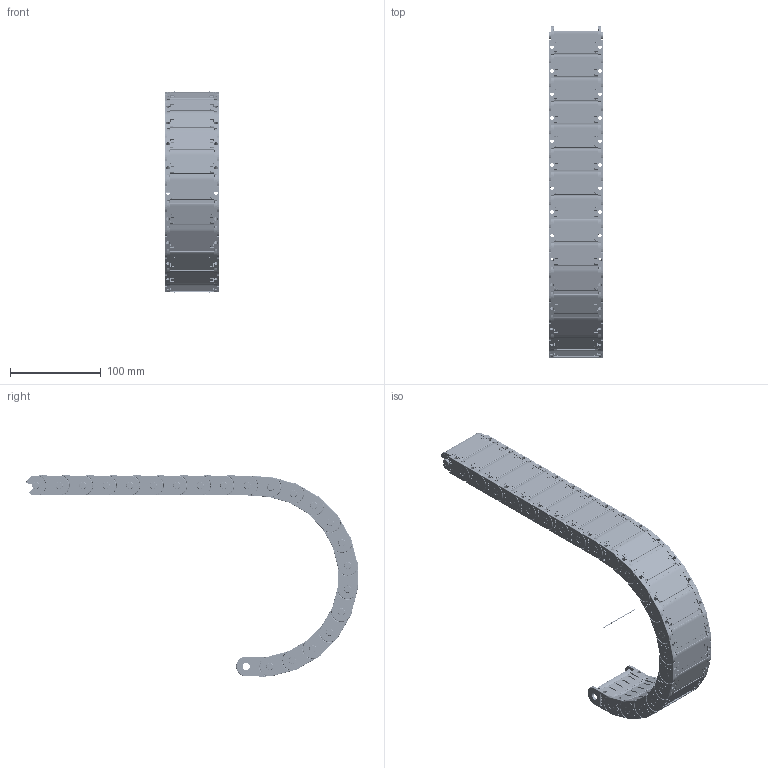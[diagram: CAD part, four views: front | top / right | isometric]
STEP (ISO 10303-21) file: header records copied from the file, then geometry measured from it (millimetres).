
FILE_DESCRIPTION((''),'2;1');
FILE_NAME('E:\Uebbing\PARAMETERKETTEN\KOLIBRI\Kol_22_060_5\KOLIBRI 22_060_5_R100.stp','2021-07-01T14:32:12',('Nutzer'),(''),'Autodesk Inventor 10','Autodesk Inventor 10','');
FILE_SCHEMA(('AUTOMOTIVE_DESIGN { 1 0 10303 214 1 1 1 1 }'));
Length unit declared in the file: millimetre
Products named in the file (5): KOLIBRI 22_060_5_50 ANr 1259; Kol_22_060_5; Kol_22_060_5_Klappdeckel; Kol_22_060_5_Lasche; Achse
Assembly tree (25 placements, depth 3):
  KOLIBRI 22_060_5_50 ANr 1259
    Kol_22_060_5  x22
      Kol_22_060_5_Klappdeckel
      Kol_22_060_5_Lasche
    Achse
Bounding box: 60 x 366.62 x 222.2 mm (x, y, z)
Volume: 218231.3 mm3; surface area: 269640.7 mm2
Topology: 89 solids, 89 shells, 15315 faces, 41474 edges, 27151 vertices
Faces by surface type: bspline 7260, plane 5260, cylinder 2619, torus 88, cone 44, sphere 44
Full cylindrical faces by diameter (mm): 0.804 x22, 1 x1, 1.412 x22, 1.8 x44, 2 x44, 4 x110, 5 x22, 8 x44
Entity records: 23926 total; most frequent: CARTESIAN_POINT 7015, ORIENTED_EDGE 3678, DIRECTION 3067, EDGE_CURVE 1839, VECTOR 1319, LINE 1319, VERTEX_POINT 1224, AXIS2_PLACEMENT_3D 874
